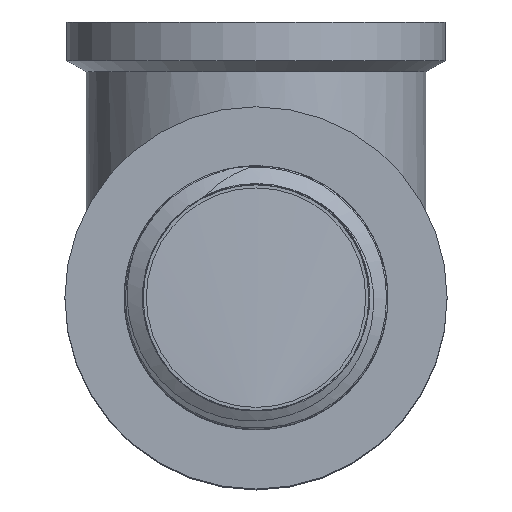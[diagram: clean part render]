
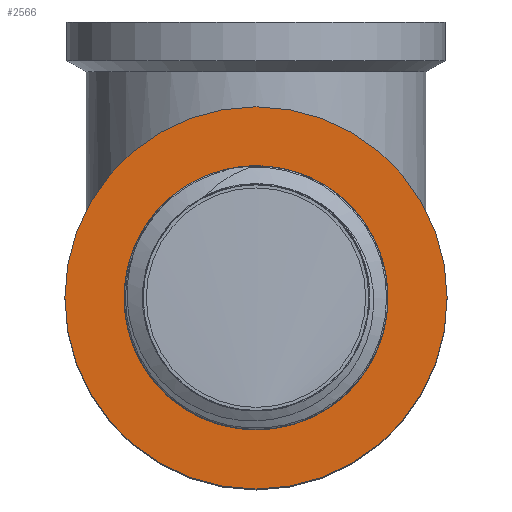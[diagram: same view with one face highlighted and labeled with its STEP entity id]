
A CAD part, top view. The second image highlights one B-rep face of the part: STEP entity #2566.
In plain terms, the highlighted planar face has unit normal (0, 0, 1).
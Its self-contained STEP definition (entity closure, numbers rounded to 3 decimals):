
#29=FACE_BOUND('',#525,.T.);
#277=PLANE('',#2790);
#373=FACE_OUTER_BOUND('',#524,.T.);
#524=EDGE_LOOP('',(#2095,#2096));
#525=EDGE_LOOP('',(#2097,#2098));
#931=CIRCLE('',#2660,7.97);
#934=CIRCLE('',#2663,7.97);
#978=CIRCLE('',#2788,13.5);
#979=CIRCLE('',#2789,13.5);
#1014=VERTEX_POINT('',#3469);
#1015=VERTEX_POINT('',#3470);
#1169=VERTEX_POINT('',#4457);
#1170=VERTEX_POINT('',#4458);
#1280=EDGE_CURVE('',#1014,#1015,#931,.T.);
#1284=EDGE_CURVE('',#1015,#1014,#934,.T.);
#1506=EDGE_CURVE('',#1169,#1170,#978,.T.);
#1507=EDGE_CURVE('',#1170,#1169,#979,.T.);
#2095=ORIENTED_EDGE('',*,*,#1506,.T.);
#2096=ORIENTED_EDGE('',*,*,#1507,.T.);
#2097=ORIENTED_EDGE('',*,*,#1280,.F.);
#2098=ORIENTED_EDGE('',*,*,#1284,.F.);
#2566=ADVANCED_FACE('',(#373,#29),#277,.T.);
#2660=AXIS2_PLACEMENT_3D('',#3471,#2882,#2883);
#2663=AXIS2_PLACEMENT_3D('',#3477,#2889,#2890);
#2788=AXIS2_PLACEMENT_3D('',#4459,#3265,#3266);
#2789=AXIS2_PLACEMENT_3D('',#4460,#3267,#3268);
#2790=AXIS2_PLACEMENT_3D('',#4462,#3270,#3271);
#2882=DIRECTION('center_axis',(0.,0.,1.));
#2883=DIRECTION('ref_axis',(1.,0.,0.));
#2889=DIRECTION('center_axis',(0.,0.,1.));
#2890=DIRECTION('ref_axis',(1.,0.,0.));
#3265=DIRECTION('center_axis',(0.,0.,1.));
#3266=DIRECTION('ref_axis',(1.,0.,0.));
#3267=DIRECTION('center_axis',(0.,0.,1.));
#3268=DIRECTION('ref_axis',(1.,0.,0.));
#3270=DIRECTION('center_axis',(0.,0.,1.));
#3271=DIRECTION('ref_axis',(1.,0.,0.));
#3469=CARTESIAN_POINT('',(0.,7.97,18.5));
#3470=CARTESIAN_POINT('',(0.,-7.97,18.5));
#3471=CARTESIAN_POINT('Origin',(0.,0.,18.5));
#3477=CARTESIAN_POINT('Origin',(0.,0.,18.5));
#4457=CARTESIAN_POINT('',(0.,-13.5,18.5));
#4458=CARTESIAN_POINT('',(0.,13.5,18.5));
#4459=CARTESIAN_POINT('Origin',(0.,0.,18.5));
#4460=CARTESIAN_POINT('Origin',(0.,0.,18.5));
#4462=CARTESIAN_POINT('Origin',(0.,-9.315,18.5));
